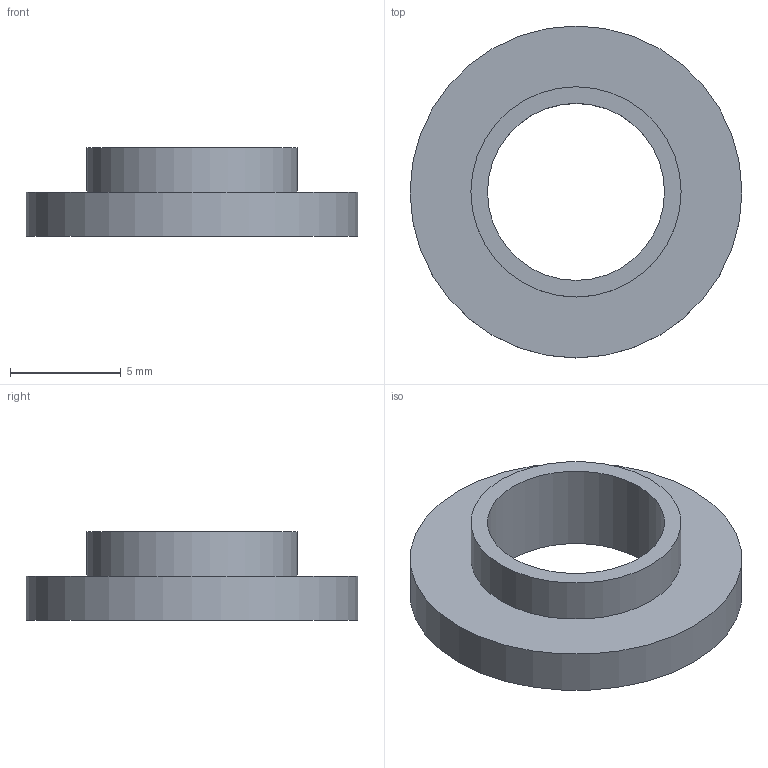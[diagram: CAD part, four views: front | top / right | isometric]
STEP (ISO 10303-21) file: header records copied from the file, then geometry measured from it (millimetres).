
FILE_DESCRIPTION(/* description */ (''),/* implementation_level */ '2;1');
FILE_NAME(/* name */ 'Bushing_Paul_H4-2-2.step',/* time_stamp */ '2025-05-17T12:13:43+02:00',/* author */ (''),/* organization */ (''),/* preprocessor_version */ 'ST-DEVELOPER v20.1',/* originating_system */ 'Autodesk Translation Framework v14.4.0.0',/* authorisation */ '');
FILE_SCHEMA (('AUTOMOTIVE_DESIGN { 1 0 10303 214 3 1 1 }'));
Length unit declared in the file: millimetre
Products named in the file (1): Bushing_Paul
Bounding box: 15 x 15 x 4 mm (x, y, z)
Volume: 294.1 mm3; surface area: 507.4 mm2
Topology: 1 solids, 1 shells, 6 faces, 9 edges, 6 vertices
Faces by surface type: cylinder 3, plane 3
Full cylindrical faces by diameter (mm): 8 x1, 9.5 x1, 15 x1
Entity records: 176 total; most frequent: DIRECTION 29, CARTESIAN_POINT 22, ORIENTED_EDGE 18, AXIS2_PLACEMENT_3D 13, EDGE_LOOP 9, EDGE_CURVE 9, FACE_OUTER_BOUND 6, CIRCLE 6
